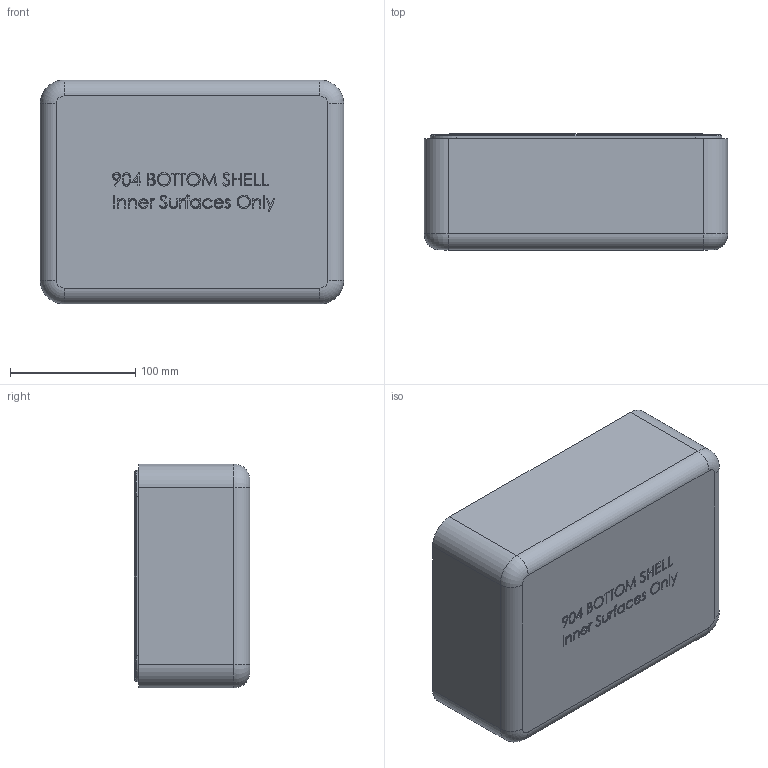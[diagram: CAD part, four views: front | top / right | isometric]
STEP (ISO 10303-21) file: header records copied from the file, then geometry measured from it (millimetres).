
FILE_DESCRIPTION (( 'STEP AP203' ), '1' );
FILE_NAME ('NANUK_904_Bottom_INNER SURFS_Step.STEP', '2015-04-16T19:24:39', ( 'Ben laptop' ), ( 'Microsoft' ), 'SwSTEP 2.0', 'SolidWorks 2014', '' );
FILE_SCHEMA (( 'CONFIG_CONTROL_DESIGN' ));
Length unit declared in the file: inch
Products named in the file (1): NANUK_904_Bottom_INNER SURFS_Step
Bounding box: 242.75 x 92.48 x 179 mm (x, y, z)
Volume: 1270706.1 mm3; surface area: 216182.8 mm2
Topology: 1 solids, 1 shells, 825 faces, 2087 edges, 1310 vertices
Faces by surface type: bspline 335, plane 293, cylinder 131, torus 38, cone 24, sphere 4
Full cylindrical faces by diameter (mm): 2.381 x10, 12.7 x1
Entity records: 46868 total; most frequent: CARTESIAN_POINT 29640, ORIENTED_EDGE 4106, DIRECTION 2630, EDGE_CURVE 2053, VERTEX_POINT 1309, LINE 976, VECTOR 976, EDGE_LOOP 906
